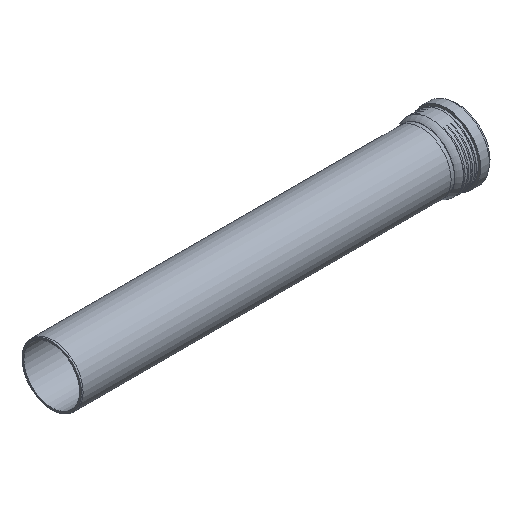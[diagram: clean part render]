
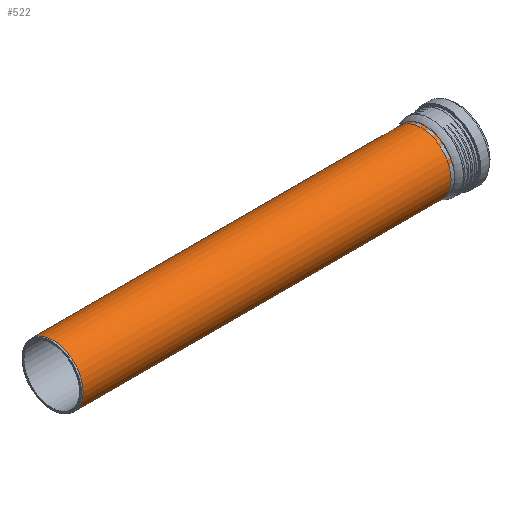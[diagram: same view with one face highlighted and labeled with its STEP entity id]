
A CAD part, isometric view. The second image highlights one B-rep face of the part: STEP entity #522.
In plain terms, the highlighted cylindrical face has radius 80.125 mm (diameter 160.25 mm), a full revolution.
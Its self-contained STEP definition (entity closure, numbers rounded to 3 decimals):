
#65=CYLINDRICAL_SURFACE('',#568,80.125);
#86=FACE_BOUND('',#158,.T.);
#122=FACE_OUTER_BOUND('',#157,.T.);
#157=EDGE_LOOP('',(#364));
#158=EDGE_LOOP('',(#365));
#223=CIRCLE('',#564,80.125);
#226=CIRCLE('',#569,80.125);
#248=VERTEX_POINT('',#756);
#251=VERTEX_POINT('',#764);
#301=EDGE_CURVE('',#248,#248,#223,.T.);
#304=EDGE_CURVE('',#251,#251,#226,.T.);
#364=ORIENTED_EDGE('',*,*,#304,.F.);
#365=ORIENTED_EDGE('',*,*,#301,.F.);
#522=ADVANCED_FACE('',(#122,#86),#65,.T.);
#564=AXIS2_PLACEMENT_3D('',#757,#630,#631);
#568=AXIS2_PLACEMENT_3D('',#763,#638,#639);
#569=AXIS2_PLACEMENT_3D('',#765,#640,#641);
#630=DIRECTION('center_axis',(-1.,0.,0.));
#631=DIRECTION('ref_axis',(0.,1.,0.));
#638=DIRECTION('center_axis',(1.,0.,0.));
#639=DIRECTION('ref_axis',(0.,1.,0.));
#640=DIRECTION('center_axis',(1.,0.,0.));
#641=DIRECTION('ref_axis',(0.,1.,0.));
#756=CARTESIAN_POINT('',(-492.5,-80.125,0.));
#757=CARTESIAN_POINT('Origin',(-492.5,0.,0.));
#763=CARTESIAN_POINT('Origin',(0.,0.,
0.));
#764=CARTESIAN_POINT('',(496.,-80.125,0.));
#765=CARTESIAN_POINT('Origin',(496.,0.,0.));
